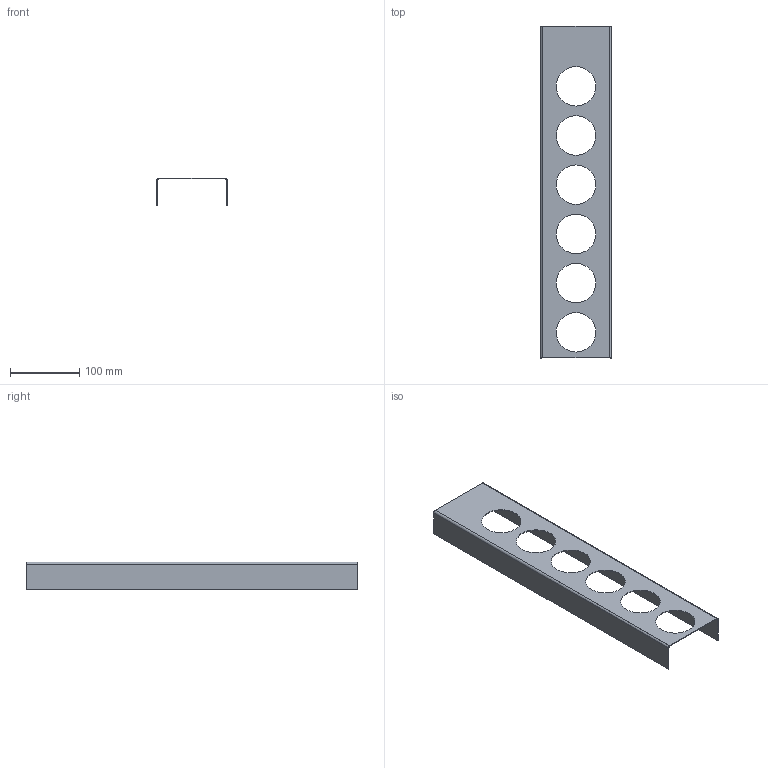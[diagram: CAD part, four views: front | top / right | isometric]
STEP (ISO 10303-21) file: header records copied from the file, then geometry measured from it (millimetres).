
FILE_DESCRIPTION (( 'STEP AP214' ), '1' );
FILE_NAME ('Gewuerzeinsatz_68322-01.STEP', '2010-10-25T13:48:54', ( 'grass' ), ( '' ), 'SwSTEP 2.0', 'SolidWorks 2010', '' );
FILE_SCHEMA (( 'AUTOMOTIVE_DESIGN' ));
Length unit declared in the file: millimetre
Products named in the file (1): Gewuerzeinsatz_68322-01
Bounding box: 102 x 479 x 40 mm (x, y, z)
Volume: 69881.5 mm3; surface area: 142151.1 mm2
Topology: 1 solids, 1 shells, 26 faces, 72 edges, 48 vertices
Faces by surface type: cylinder 16, plane 10
Entity records: 906 total; most frequent: DIRECTION 158, CARTESIAN_POINT 147, ORIENTED_EDGE 144, EDGE_CURVE 72, AXIS2_PLACEMENT_3D 59, VERTEX_POINT 48, VECTOR 40, LINE 40
